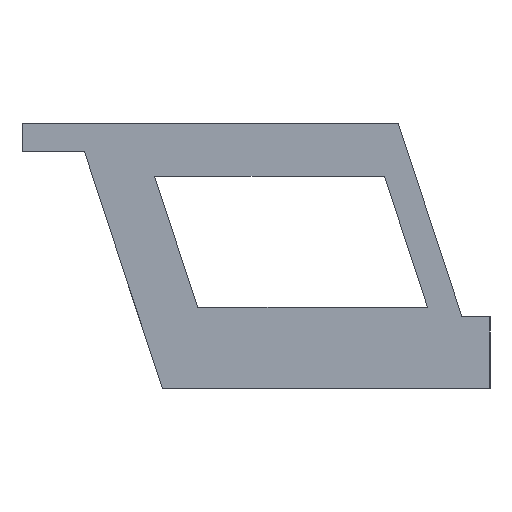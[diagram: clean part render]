
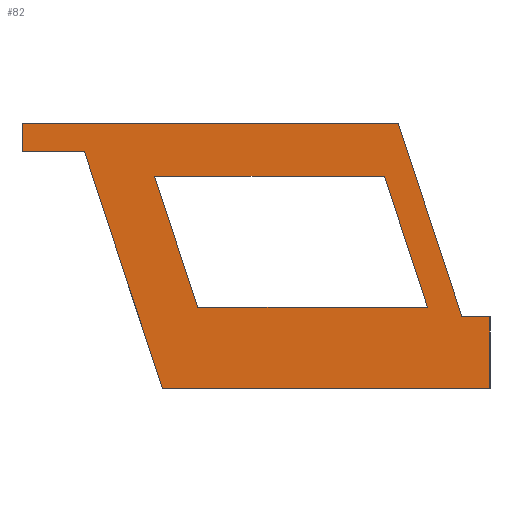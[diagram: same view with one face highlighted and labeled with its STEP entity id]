
A CAD part, left-side view. The second image highlights one B-rep face of the part: STEP entity #82.
In plain terms, the highlighted planar face has unit normal (-1, 0, 0).
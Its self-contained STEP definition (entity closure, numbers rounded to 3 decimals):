
#82 = ADVANCED_FACE( '', ( #192, #193 ), #194, .F. );
#192 = FACE_OUTER_BOUND( '', #353, .T. );
#193 = FACE_BOUND( '', #354, .T. );
#194 = PLANE( '', #355 );
#353 = EDGE_LOOP( '', ( #552, #553, #554, #555, #556, #557, #558, #559 ) );
#354 = EDGE_LOOP( '', ( #560, #561, #562, #563 ) );
#355 = AXIS2_PLACEMENT_3D( '', #564, #565, #566 );
#552 = ORIENTED_EDGE( '', *, *, #918, .F. );
#553 = ORIENTED_EDGE( '', *, *, #913, .F. );
#554 = ORIENTED_EDGE( '', *, *, #919, .F. );
#555 = ORIENTED_EDGE( '', *, *, #920, .F. );
#556 = ORIENTED_EDGE( '', *, *, #921, .F. );
#557 = ORIENTED_EDGE( '', *, *, #922, .F. );
#558 = ORIENTED_EDGE( '', *, *, #904, .F. );
#559 = ORIENTED_EDGE( '', *, *, #923, .F. );
#560 = ORIENTED_EDGE( '', *, *, #924, .T. );
#561 = ORIENTED_EDGE( '', *, *, #925, .T. );
#562 = ORIENTED_EDGE( '', *, *, #926, .T. );
#563 = ORIENTED_EDGE( '', *, *, #885, .T. );
#564 = CARTESIAN_POINT( '', ( -50., 0., 0. ) );
#565 = DIRECTION( '', ( 1., 0., 0. ) );
#566 = DIRECTION( '', ( 0., 0., -1. ) );
#885 = EDGE_CURVE( '', #1047, #1048, #1049, .T. );
#904 = EDGE_CURVE( '', #1081, #1082, #1083, .T. );
#913 = EDGE_CURVE( '', #1096, #1097, #1098, .T. );
#918 = EDGE_CURVE( '', #1097, #1105, #1106, .T. );
#919 = EDGE_CURVE( '', #1107, #1096, #1108, .T. );
#920 = EDGE_CURVE( '', #1109, #1107, #1110, .T. );
#921 = EDGE_CURVE( '', #1111, #1109, #1112, .T. );
#922 = EDGE_CURVE( '', #1082, #1111, #1113, .T. );
#923 = EDGE_CURVE( '', #1105, #1081, #1114, .T. );
#924 = EDGE_CURVE( '', #1048, #1115, #1116, .T. );
#925 = EDGE_CURVE( '', #1115, #1117, #1118, .T. );
#926 = EDGE_CURVE( '', #1117, #1047, #1119, .T. );
#1047 = VERTEX_POINT( '', #1287 );
#1048 = VERTEX_POINT( '', #1288 );
#1049 = LINE( '', #1289, #1290 );
#1081 = VERTEX_POINT( '', #1337 );
#1082 = VERTEX_POINT( '', #1338 );
#1083 = LINE( '', #1339, #1340 );
#1096 = VERTEX_POINT( '', #1359 );
#1097 = VERTEX_POINT( '', #1360 );
#1098 = LINE( '', #1361, #1362 );
#1105 = VERTEX_POINT( '', #1372 );
#1106 = LINE( '', #1373, #1374 );
#1107 = VERTEX_POINT( '', #1375 );
#1108 = LINE( '', #1376, #1377 );
#1109 = VERTEX_POINT( '', #1378 );
#1110 = LINE( '', #1379, #1380 );
#1111 = VERTEX_POINT( '', #1381 );
#1112 = LINE( '', #1382, #1383 );
#1113 = LINE( '', #1384, #1385 );
#1114 = LINE( '', #1386, #1387 );
#1115 = VERTEX_POINT( '', #1388 );
#1116 = LINE( '', #1389, #1390 );
#1117 = VERTEX_POINT( '', #1391 );
#1118 = LINE( '', #1392, #1393 );
#1119 = LINE( '', #1394, #1395 );
#1287 = CARTESIAN_POINT( '', ( -50., -120.012, -59. ) );
#1288 = CARTESIAN_POINT( '', ( -50., -46.322, -59. ) );
#1289 = CARTESIAN_POINT( '', ( -50., -120.012, -59. ) );
#1290 = VECTOR( '', #1600, 1000. );
#1337 = CARTESIAN_POINT( '', ( -50., -140., -85. ) );
#1338 = CARTESIAN_POINT( '', ( -50., -35., -85. ) );
#1339 = CARTESIAN_POINT( '', ( -50., -140., -85. ) );
#1340 = VECTOR( '', #1616, 1000. );
#1359 = CARTESIAN_POINT( '', ( -50., -110.604, 0. ) );
#1360 = CARTESIAN_POINT( '', ( -50., -131., -62. ) );
#1361 = CARTESIAN_POINT( '', ( -50., -110.604, 0. ) );
#1362 = VECTOR( '', #1623, 1000. );
#1372 = CARTESIAN_POINT( '', ( -50., -140., -62. ) );
#1373 = CARTESIAN_POINT( '', ( -50., -131., -62. ) );
#1374 = VECTOR( '', #1627, 1000. );
#1375 = CARTESIAN_POINT( '', ( -50., 10., 0. ) );
#1376 = CARTESIAN_POINT( '', ( -50., 10., 0. ) );
#1377 = VECTOR( '', #1628, 1000. );
#1378 = CARTESIAN_POINT( '', ( -50., 10., -9. ) );
#1379 = CARTESIAN_POINT( '', ( -50., 10., -9. ) );
#1380 = VECTOR( '', #1629, 1000. );
#1381 = CARTESIAN_POINT( '', ( -50., -10., -9. ) );
#1382 = CARTESIAN_POINT( '', ( -50., -10., -9. ) );
#1383 = VECTOR( '', #1630, 1000. );
#1384 = CARTESIAN_POINT( '', ( -50., -35., -85. ) );
#1385 = VECTOR( '', #1631, 1000. );
#1386 = CARTESIAN_POINT( '', ( -50., -140., -62. ) );
#1387 = VECTOR( '', #1632, 1000. );
#1388 = CARTESIAN_POINT( '', ( -50., -32.504, -17. ) );
#1389 = CARTESIAN_POINT( '', ( -50., -46.322, -59. ) );
#1390 = VECTOR( '', #1633, 1000. );
#1391 = CARTESIAN_POINT( '', ( -50., -106.195, -17. ) );
#1392 = CARTESIAN_POINT( '', ( -50., -32.504, -17. ) );
#1393 = VECTOR( '', #1634, 1000. );
#1394 = CARTESIAN_POINT( '', ( -50., -106.195, -17. ) );
#1395 = VECTOR( '', #1635, 1000. );
#1600 = DIRECTION( '', ( 0., 1., 0. ) );
#1616 = DIRECTION( '', ( 0., 1., 0. ) );
#1623 = DIRECTION( '', ( 0., -0.312, -0.95 ) );
#1627 = DIRECTION( '', ( 0., -1., 0. ) );
#1628 = DIRECTION( '', ( 0., -1., 0. ) );
#1629 = DIRECTION( '', ( 0., 0., 1. ) );
#1630 = DIRECTION( '', ( 0., 1., 0. ) );
#1631 = DIRECTION( '', ( 0., 0.312, 0.95 ) );
#1632 = DIRECTION( '', ( 0., 0., -1. ) );
#1633 = DIRECTION( '', ( 0., 0.313, 0.95 ) );
#1634 = DIRECTION( '', ( 0., -1., 0. ) );
#1635 = DIRECTION( '', ( 0., -0.312, -0.95 ) );
